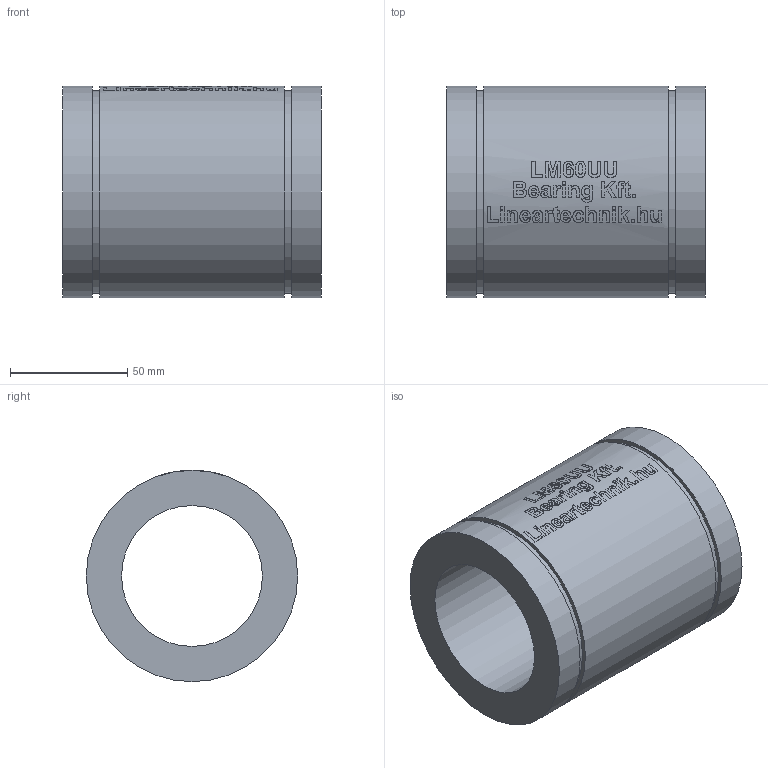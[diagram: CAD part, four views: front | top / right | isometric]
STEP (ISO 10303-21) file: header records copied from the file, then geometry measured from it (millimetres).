
FILE_DESCRIPTION(/* description */ ('Huosing for flange nuts'),/* implementation_level */ '2;1');
FILE_NAME(/* name */ 'LM60UU',/* time_stamp */ '2019-05-07T14:08:55+02:00',/* author */ ('VĂ©gh MĂˇtĂ©'),/* organization */ ('Bearing Kft'),/* preprocessor_version */ 'ST-DEVELOPER v16.7',/* originating_system */ 'DEX',/* authorisation */ $);
FILE_SCHEMA (('AUTOMOTIVE_DESIGN {1 0 10303 214 3 1 1}'));
Length unit declared in the file: millimetre
Products named in the file (1): LM60UU
Bounding box: 110 x 90 x 90 mm (x, y, z)
Volume: 385652.6 mm3; surface area: 60860.5 mm2
Topology: 1 solids, 1 shells, 297 faces, 737 edges, 492 vertices
Faces by surface type: plane 151, bspline 94, cylinder 52
Full cylindrical faces by diameter (mm): 60 x1, 86.5 x2, 90 x3
Entity records: 23037 total; most frequent: CARTESIAN_POINT 16485, ORIENTED_EDGE 1450, DIRECTION 1078, EDGE_CURVE 725, VERTEX_POINT 490, LINE 398, VECTOR 398, EDGE_LOOP 359
